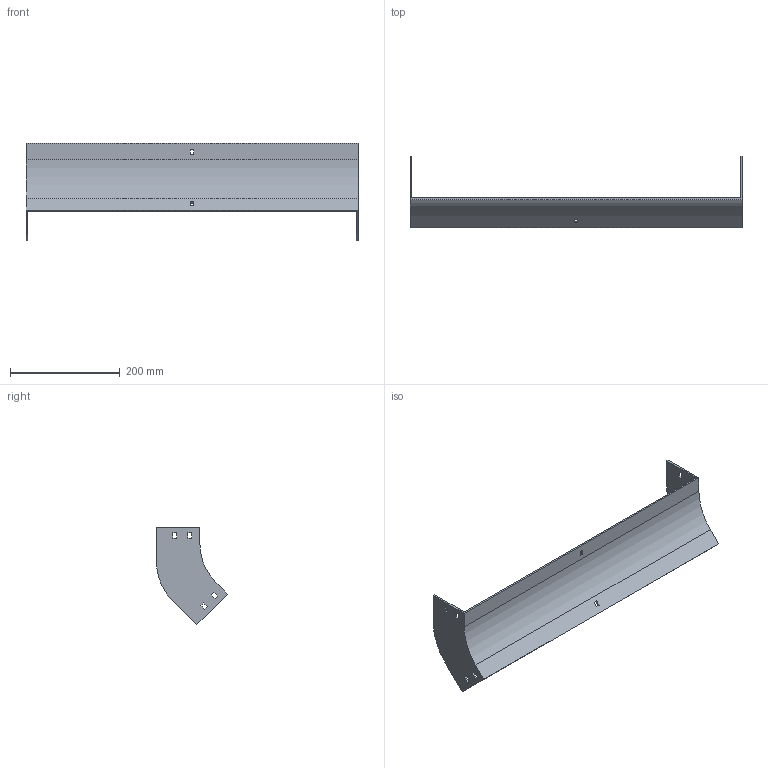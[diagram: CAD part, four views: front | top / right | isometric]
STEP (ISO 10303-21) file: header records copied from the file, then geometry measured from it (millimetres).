
FILE_DESCRIPTION (( 'STEP AP214' ), '1' );
FILE_NAME ('34F1C600.step', '2025-02-21T12:51:39', ( '' ), ( '' ), 'SwSTEP 2.0', 'SolidWorks 2023', '' );
FILE_SCHEMA (( 'AUTOMOTIVE_DESIGN' ));
Length unit declared in the file: millimetre
Products named in the file (1): 34F1C600
Bounding box: 604 x 129.5 x 177.79 mm (x, y, z)
Volume: 387069.1 mm3; surface area: 229054.6 mm2
Topology: 1 solids, 1 shells, 58 faces, 168 edges, 112 vertices
Faces by surface type: plane 54, cylinder 4
Entity records: 1943 total; most frequent: CARTESIAN_POINT 339, ORIENTED_EDGE 336, DIRECTION 294, EDGE_CURVE 168, VECTOR 160, LINE 160, VERTEX_POINT 112, EDGE_LOOP 78
